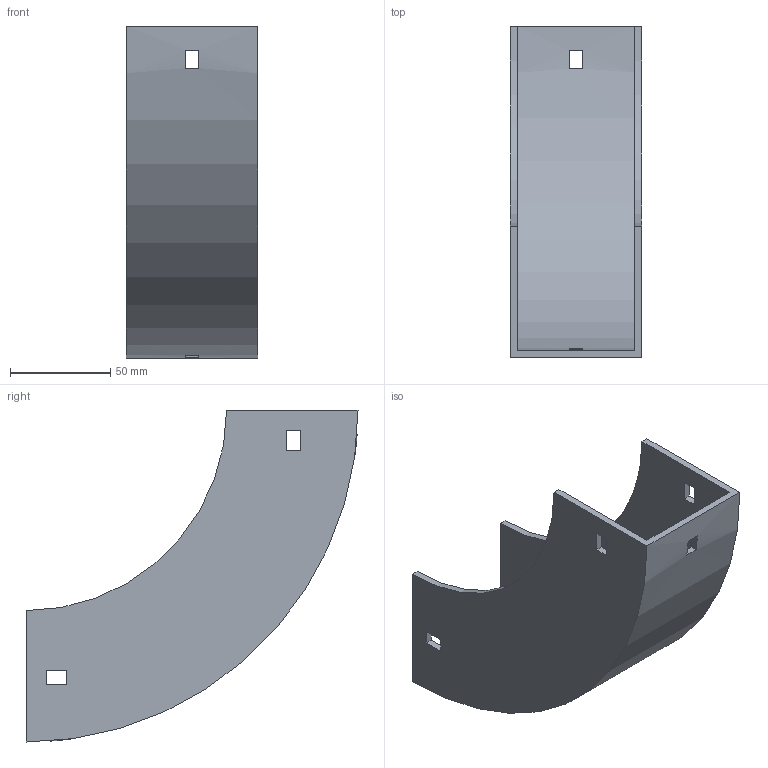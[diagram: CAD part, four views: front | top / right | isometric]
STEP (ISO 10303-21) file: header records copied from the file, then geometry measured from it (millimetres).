
FILE_DESCRIPTION (( 'STEP AP214' ), '1' );
FILE_NAME ('30B1H065.step', '2025-02-21T09:49:54', ( '' ), ( '' ), 'SwSTEP 2.0', 'SolidWorks 2023', '' );
FILE_SCHEMA (( 'AUTOMOTIVE_DESIGN' ));
Length unit declared in the file: millimetre
Products named in the file (1): 30B1H065
Bounding box: 65.5 x 165.5 x 165.5 mm (x, y, z)
Volume: 146881.6 mm3; surface area: 87071.8 mm2
Topology: 1 solids, 1 shells, 34 faces, 96 edges, 64 vertices
Faces by surface type: plane 30, cylinder 4
Entity records: 1143 total; most frequent: CARTESIAN_POINT 195, ORIENTED_EDGE 192, DIRECTION 182, EDGE_CURVE 96, LINE 80, VECTOR 80, VERTEX_POINT 64, AXIS2_PLACEMENT_3D 51
